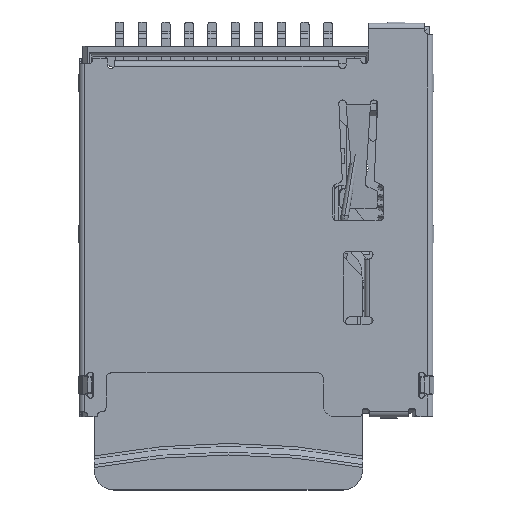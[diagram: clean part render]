
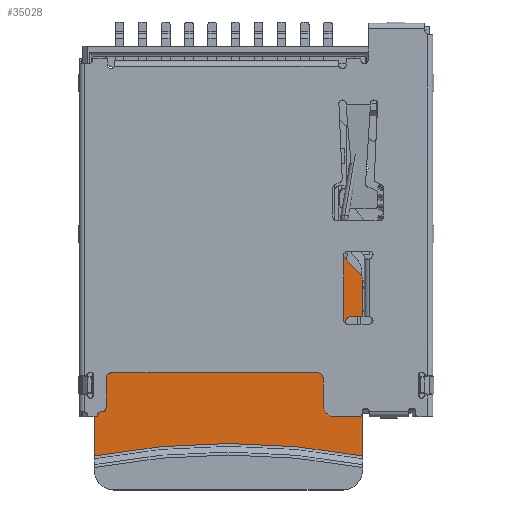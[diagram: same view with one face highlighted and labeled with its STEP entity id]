
A CAD part, top view. The second image highlights one B-rep face of the part: STEP entity #35028.
In plain terms, the highlighted planar face has unit normal (0, 0, 1).
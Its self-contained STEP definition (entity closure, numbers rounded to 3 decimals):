
#33744=DIRECTION('',(0.,-1.,0.));
#33745=VECTOR('',#33744,1.5);
#33746=CARTESIAN_POINT('',(11.47,5.6,1.35));
#33747=LINE('',#33746,#33745);
#33752=DIRECTION('',(-1.,0.,0.));
#33753=VECTOR('',#33752,0.5);
#33754=CARTESIAN_POINT('',(11.47,4.1,1.35));
#33755=LINE('',#33754,#33753);
#33772=DIRECTION('',(0.,-1.,0.));
#33773=VECTOR('',#33772,1.);
#33774=CARTESIAN_POINT('',(10.77,3.9,1.35));
#33775=LINE('',#33774,#33773);
#33826=CARTESIAN_POINT('',(0.47,-1.602,
1.35));
#33883=DIRECTION('',(0.,-1.,0.));
#33884=VECTOR('',#33883,12.802);
#33885=CARTESIAN_POINT('',(0.47,11.2,1.35));
#33886=LINE('',#33885,#33884);
#33887=CARTESIAN_POINT('',(1.27,11.2,1.35));
#33888=DIRECTION('',(0.,0.,1.));
#33889=DIRECTION('',(0.,1.,0.));
#33890=AXIS2_PLACEMENT_3D('',#33887,#33888,#33889);
#33892=CARTESIAN_POINT('',(9.37,11.2,1.35));
#33893=DIRECTION('',(0.,0.,1.));
#33894=DIRECTION('',(1.,0.,0.));
#33895=AXIS2_PLACEMENT_3D('',#33892,#33893,#33894);
#33897=DIRECTION('',(0.,1.,0.));
#33898=VECTOR('',#33897,3.969);
#33899=CARTESIAN_POINT('',(10.17,7.231,1.35));
#33900=LINE('',#33899,#33898);
#33901=CARTESIAN_POINT('',(10.57,7.231,1.35));
#33902=DIRECTION('',(0.,0.,-1.));
#33903=DIRECTION('',(-0.707,-0.707,0.));
#33904=AXIS2_PLACEMENT_3D('',#33901,#33902,#33903);
#33906=DIRECTION('',(-0.707,0.707,0.));
#33907=VECTOR('',#33906,1.507);
#33908=CARTESIAN_POINT('',(11.353,5.883,1.35));
#33909=LINE('',#33908,#33907);
#33910=CARTESIAN_POINT('',(11.07,5.6,1.35));
#33911=DIRECTION('',(0.,0.,1.));
#33912=DIRECTION('',(1.,0.,0.));
#33913=AXIS2_PLACEMENT_3D('',#33910,#33911,#33912);
#33915=CARTESIAN_POINT('',(10.97,3.9,1.35));
#33916=DIRECTION('',(0.,0.,-1.));
#33917=DIRECTION('',(-1.,0.,0.));
#33918=AXIS2_PLACEMENT_3D('',#33915,#33916,#33917);
#33920=CARTESIAN_POINT('',(11.17,2.9,1.35));
#33921=DIRECTION('',(0.,0.,-1.));
#33922=DIRECTION('',(-0.707,-0.707,0.));
#33923=AXIS2_PLACEMENT_3D('',#33920,#33921,#33922);
#33925=DIRECTION('',(-0.707,0.707,0.));
#33926=VECTOR('',#33925,0.824);
#33927=CARTESIAN_POINT('',(11.47,2.034,1.35));
#33928=LINE('',#33927,#33926);
#33929=DIRECTION('',(0.,1.,0.));
#33930=VECTOR('',#33929,3.636);
#33931=CARTESIAN_POINT('',(11.47,-1.602,
1.35));
#33932=LINE('',#33931,#33930);
#33933=CARTESIAN_POINT('',(5.97,-31.16,1.35));
#33934=DIRECTION('',(0.,0.,-1.));
#33935=DIRECTION('',(-0.183,0.983,0.));
#33936=AXIS2_PLACEMENT_3D('',#33933,#33934,#33935);
#33938=DIRECTION('',(1.,0.,0.));
#33939=VECTOR('',#33938,8.1);
#33940=CARTESIAN_POINT('',(1.27,12.,1.35));
#33941=LINE('',#33940,#33939);
#33983=CARTESIAN_POINT('',(11.47,-1.602,
1.35));
#34346=CARTESIAN_POINT('',(10.887,2.617,1.35));
#34347=CARTESIAN_POINT('',(10.77,2.9,1.35));
#34348=VERTEX_POINT('',#34346);
#34349=VERTEX_POINT('',#34347);
#34364=CARTESIAN_POINT('',(10.287,6.949,1.35));
#34365=CARTESIAN_POINT('',(10.17,7.231,1.35));
#34366=VERTEX_POINT('',#34364);
#34367=VERTEX_POINT('',#34365);
#34372=CARTESIAN_POINT('',(11.47,5.6,1.35));
#34374=VERTEX_POINT('',#34372);
#34396=CARTESIAN_POINT('',(10.17,11.2,1.35));
#34397=CARTESIAN_POINT('',(9.37,12.,1.35));
#34398=VERTEX_POINT('',#34396);
#34399=VERTEX_POINT('',#34397);
#34412=CARTESIAN_POINT('',(11.353,5.883,1.35));
#34413=VERTEX_POINT('',#34412);
#34426=CARTESIAN_POINT('',(11.47,4.1,1.35));
#34427=CARTESIAN_POINT('',(10.97,4.1,1.35));
#34428=VERTEX_POINT('',#34426);
#34429=VERTEX_POINT('',#34427);
#34444=CARTESIAN_POINT('',(10.77,3.9,1.35));
#34445=VERTEX_POINT('',#34444);
#34475=VERTEX_POINT('',#33983);
#34476=CARTESIAN_POINT('',(11.47,2.034,1.35));
#34478=VERTEX_POINT('',#34476);
#34498=VERTEX_POINT('',#33826);
#34521=CARTESIAN_POINT('',(1.27,12.,1.35));
#34523=VERTEX_POINT('',#34521);
#34533=CARTESIAN_POINT('',(0.47,11.2,1.35));
#34534=VERTEX_POINT('',#34533);
#35001=CARTESIAN_POINT('',(5.97,5.199,1.35));
#35002=DIRECTION('',(0.,0.,1.));
#35003=DIRECTION('',(1.,0.,0.));
#35004=AXIS2_PLACEMENT_3D('',#35001,#35002,#35003);
#35005=PLANE('',#35004);
#35006=ORIENTED_EDGE('',*,*,#34907,.F.);
#35007=ORIENTED_EDGE('',*,*,#34990,.F.);
#35009=ORIENTED_EDGE('',*,*,#35008,.T.);
#35011=ORIENTED_EDGE('',*,*,#35010,.F.);
#35013=ORIENTED_EDGE('',*,*,#35012,.F.);
#35014=ORIENTED_EDGE('',*,*,#34738,.F.);
#35015=ORIENTED_EDGE('',*,*,#34753,.F.);
#35016=ORIENTED_EDGE('',*,*,#34767,.F.);
#35017=ORIENTED_EDGE('',*,*,#34781,.T.);
#35018=ORIENTED_EDGE('',*,*,#34795,.T.);
#35019=ORIENTED_EDGE('',*,*,#34809,.F.);
#35020=ORIENTED_EDGE('',*,*,#34823,.T.);
#35021=ORIENTED_EDGE('',*,*,#34837,.F.);
#35022=ORIENTED_EDGE('',*,*,#34851,.F.);
#35023=ORIENTED_EDGE('',*,*,#34867,.F.);
#35025=ORIENTED_EDGE('',*,*,#35024,.F.);
#35026=EDGE_LOOP('',(#35006,#35007,#35009,#35011,#35013,#35014,#35015,#35016,
#35017,#35018,#35019,#35020,#35021,#35022,#35023,#35025));
#35027=FACE_OUTER_BOUND('',#35026,.F.);
#33891=CIRCLE('',#33890,0.8);
#33896=CIRCLE('',#33895,0.8);
#33905=CIRCLE('',#33904,0.4);
#33914=CIRCLE('',#33913,0.4);
#33919=CIRCLE('',#33918,0.2);
#33924=CIRCLE('',#33923,0.4);
#33937=CIRCLE('',#33936,30.066);
#34738=EDGE_CURVE('',#34366,#34367,#33905,.T.);
#34753=EDGE_CURVE('',#34413,#34366,#33909,.T.);
#34767=EDGE_CURVE('',#34374,#34413,#33914,.T.);
#34781=EDGE_CURVE('',#34374,#34428,#33747,.T.);
#34795=EDGE_CURVE('',#34428,#34429,#33755,.T.);
#34809=EDGE_CURVE('',#34445,#34429,#33919,.T.);
#34823=EDGE_CURVE('',#34445,#34349,#33775,.T.);
#34837=EDGE_CURVE('',#34348,#34349,#33924,.T.);
#34851=EDGE_CURVE('',#34478,#34348,#33928,.T.);
#34867=EDGE_CURVE('',#34475,#34478,#33932,.T.);
#34907=EDGE_CURVE('',#34534,#34498,#33886,.T.);
#34990=EDGE_CURVE('',#34523,#34534,#33891,.T.);
#35008=EDGE_CURVE('',#34523,#34399,#33941,.T.);
#35010=EDGE_CURVE('',#34398,#34399,#33896,.T.);
#35012=EDGE_CURVE('',#34367,#34398,#33900,.T.);
#35024=EDGE_CURVE('',#34498,#34475,#33937,.T.);
#35028=ADVANCED_FACE('',(#35027),#35005,.T.);
